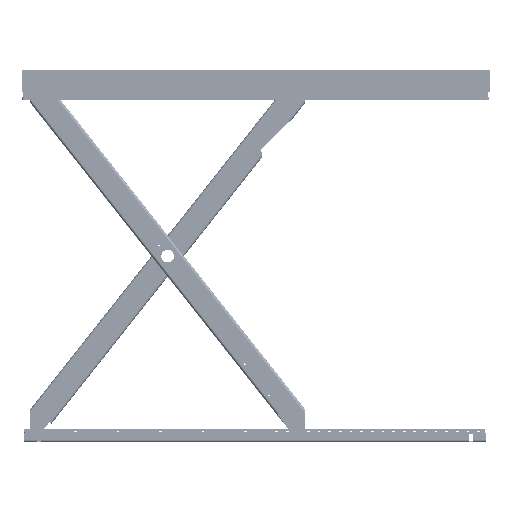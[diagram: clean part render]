
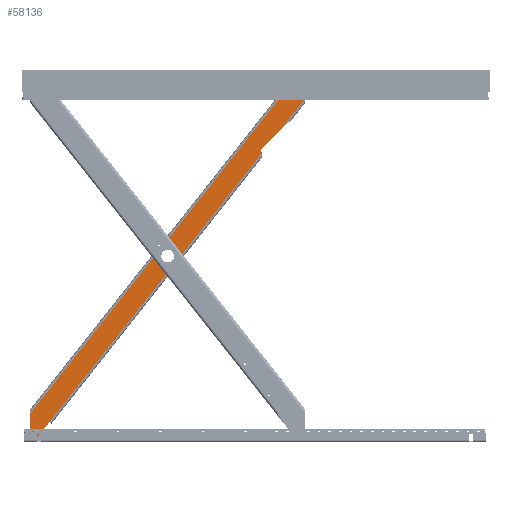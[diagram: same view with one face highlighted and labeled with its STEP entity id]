
A CAD part, left-side view. The second image highlights one B-rep face of the part: STEP entity #58136.
In plain terms, the highlighted planar face has unit normal (-1, 0, 0) as drawn and (1, 0, 0) by its records, which use the part's own axes.
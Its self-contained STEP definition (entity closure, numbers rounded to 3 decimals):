
#3274=PLANE('',#62090);
#5725=LINE('',#86797,#10997);
#5739=LINE('',#86841,#11011);
#5746=LINE('',#86861,#11018);
#5765=LINE('',#86961,#11037);
#5773=LINE('',#87014,#11045);
#5780=LINE('',#87030,#11052);
#5781=LINE('',#87033,#11053);
#5789=LINE('',#87090,#11061);
#5796=LINE('',#87108,#11068);
#5799=LINE('',#87119,#11071);
#5804=LINE('',#87157,#11076);
#10997=VECTOR('',#70287,23.218);
#11011=VECTOR('',#70323,23.218);
#11018=VECTOR('',#70342,84.69);
#11037=VECTOR('',#70423,90.);
#11045=VECTOR('',#70455,1612.503);
#11052=VECTOR('',#70474,90.);
#11053=VECTOR('',#70477,84.69);
#11061=VECTOR('',#70509,131.63);
#11068=VECTOR('',#70534,16.146);
#11071=VECTOR('',#70551,182.695);
#11076=VECTOR('',#70572,1942.429);
#15240=FACE_BOUND('',#19619,.T.);
#15241=FACE_BOUND('',#19620,.T.);
#15242=FACE_BOUND('',#19621,.T.);
#16304=FACE_OUTER_BOUND('',#19618,.T.);
#19618=EDGE_LOOP('',(#43439,#43440,#43441,#43442,#43443,#43444,#43445,#43446,
#43447,#43448,#43449,#43450,#43451,#43452,#43453,#43454));
#19619=EDGE_LOOP('',(#43455));
#19620=EDGE_LOOP('',(#43456));
#19621=EDGE_LOOP('',(#43457));
#23063=CIRCLE('',#61984,20.);
#23072=CIRCLE('',#61996,20.);
#23082=CIRCLE('',#62023,5.);
#23083=CIRCLE('',#62026,35.);
#23084=CIRCLE('',#62029,7.25);
#23085=CIRCLE('',#62032,7.25);
#23091=CIRCLE('',#62051,5.);
#23096=CIRCLE('',#62070,6.);
#26234=VERTEX_POINT('',#86784);
#26235=VERTEX_POINT('',#86785);
#26239=VERTEX_POINT('',#86795);
#26256=VERTEX_POINT('',#86833);
#26257=VERTEX_POINT('',#86834);
#26258=VERTEX_POINT('',#86839);
#26265=VERTEX_POINT('',#86860);
#26285=VERTEX_POINT('',#86915);
#26286=VERTEX_POINT('',#86920);
#26287=VERTEX_POINT('',#86924);
#26288=VERTEX_POINT('',#86928);
#26291=VERTEX_POINT('',#86946);
#26302=VERTEX_POINT('',#87012);
#26304=VERTEX_POINT('',#87024);
#26305=VERTEX_POINT('',#87028);
#26306=VERTEX_POINT('',#87032);
#26318=VERTEX_POINT('',#87087);
#26319=VERTEX_POINT('',#87089);
#26321=VERTEX_POINT('',#87099);
#32615=EDGE_CURVE('',#26234,#26235,#23063,.T.);
#32621=EDGE_CURVE('',#26239,#26234,#5725,.T.);
#32639=EDGE_CURVE('',#26256,#26257,#23072,.T.);
#32643=EDGE_CURVE('',#26256,#26258,#5739,.T.);
#32653=EDGE_CURVE('',#26265,#26235,#5746,.T.);
#32681=EDGE_CURVE('',#26285,#26258,#23082,.T.);
#32683=EDGE_CURVE('',#26286,#26286,#23083,.T.);
#32684=EDGE_CURVE('',#26287,#26287,#23084,.T.);
#32685=EDGE_CURVE('',#26288,#26288,#23085,.T.);
#32690=EDGE_CURVE('',#26291,#26285,#5765,.T.);
#32707=EDGE_CURVE('',#26302,#26291,#5773,.T.);
#32712=EDGE_CURVE('',#26304,#26239,#23091,.T.);
#32715=EDGE_CURVE('',#26304,#26305,#5780,.T.);
#32716=EDGE_CURVE('',#26306,#26257,#5781,.T.);
#32734=EDGE_CURVE('',#26319,#26318,#5789,.T.);
#32740=EDGE_CURVE('',#26321,#26319,#23096,.T.);
#32745=EDGE_CURVE('',#26302,#26321,#5796,.T.);
#32750=EDGE_CURVE('',#26265,#26318,#5799,.T.);
#32759=EDGE_CURVE('',#26305,#26306,#5804,.T.);
#43439=ORIENTED_EDGE('',*,*,#32615,.F.);
#43440=ORIENTED_EDGE('',*,*,#32621,.F.);
#43441=ORIENTED_EDGE('',*,*,#32712,.F.);
#43442=ORIENTED_EDGE('',*,*,#32715,.T.);
#43443=ORIENTED_EDGE('',*,*,#32759,.T.);
#43444=ORIENTED_EDGE('',*,*,#32716,.T.);
#43445=ORIENTED_EDGE('',*,*,#32639,.F.);
#43446=ORIENTED_EDGE('',*,*,#32643,.T.);
#43447=ORIENTED_EDGE('',*,*,#32681,.F.);
#43448=ORIENTED_EDGE('',*,*,#32690,.F.);
#43449=ORIENTED_EDGE('',*,*,#32707,.F.);
#43450=ORIENTED_EDGE('',*,*,#32745,.T.);
#43451=ORIENTED_EDGE('',*,*,#32740,.T.);
#43452=ORIENTED_EDGE('',*,*,#32734,.T.);
#43453=ORIENTED_EDGE('',*,*,#32750,.F.);
#43454=ORIENTED_EDGE('',*,*,#32653,.T.);
#43455=ORIENTED_EDGE('',*,*,#32683,.T.);
#43456=ORIENTED_EDGE('',*,*,#32684,.T.);
#43457=ORIENTED_EDGE('',*,*,#32685,.T.);
#58136=ADVANCED_FACE('',(#16304,#15240,#15241,#15242),#3274,.T.);
#61984=AXIS2_PLACEMENT_3D('',#86786,#70277,#70278);
#61996=AXIS2_PLACEMENT_3D('',#86835,#70316,#70317);
#62023=AXIS2_PLACEMENT_3D('',#86916,#70396,#70397);
#62026=AXIS2_PLACEMENT_3D('',#86921,#70403,#70404);
#62029=AXIS2_PLACEMENT_3D('',#86925,#70409,#70410);
#62032=AXIS2_PLACEMENT_3D('',#86929,#70415,#70416);
#62051=AXIS2_PLACEMENT_3D('',#87025,#70468,#70469);
#62070=AXIS2_PLACEMENT_3D('',#87100,#70521,#70522);
#62090=AXIS2_PLACEMENT_3D('',#87158,#70573,#70574);
#70277=DIRECTION('center_axis',(-1.,0.,0.));
#70278=DIRECTION('ref_axis',(0.,-0.439,-0.898));
#70287=DIRECTION('',(0.,-1.,0.));
#70316=DIRECTION('center_axis',(-1.,0.,0.));
#70317=DIRECTION('ref_axis',(0.,0.439,0.898));
#70323=DIRECTION('',(0.,-1.,0.));
#70342=DIRECTION('',(0.,0.614,-0.789));
#70396=DIRECTION('center_axis',(-1.,0.,0.));
#70397=DIRECTION('ref_axis',(0.,-0.707,0.707));
#70403=DIRECTION('center_axis',(-1.,0.,0.));
#70404=DIRECTION('ref_axis',(0.,1.,-0.027));
#70409=DIRECTION('center_axis',(-1.,0.,0.));
#70410=DIRECTION('ref_axis',(0.,0.,
-1.));
#70415=DIRECTION('center_axis',(-1.,0.,0.));
#70416=DIRECTION('ref_axis',(0.,0.,
-1.));
#70423=DIRECTION('',(0.,0.,1.));
#70455=DIRECTION('',(0.,0.,1.));
#70468=DIRECTION('center_axis',(-1.,0.,0.));
#70469=DIRECTION('ref_axis',(0.,0.707,-0.707));
#70474=DIRECTION('',(0.,0.,1.));
#70477=DIRECTION('',(0.,-0.614,0.789));
#70509=DIRECTION('',(0.,-0.1,-0.995));
#70521=DIRECTION('center_axis',(-1.,0.,0.));
#70522=DIRECTION('ref_axis',(0.,-0.995,0.1));
#70534=DIRECTION('',(0.,0.707,-0.707));
#70551=DIRECTION('',(0.,0.,1.));
#70572=DIRECTION('',(0.,0.,1.));
#70573=DIRECTION('center_axis',(1.,0.,0.));
#70574=DIRECTION('ref_axis',(0.,0.,-1.));
#86784=CARTESIAN_POINT('',(30.,19.782,0.));
#86785=CARTESIAN_POINT('',(30.,3.995,7.721));
#86786=CARTESIAN_POINT('Origin',(30.,19.782,20.));
#86795=CARTESIAN_POINT('',(30.,43.,0.));
#86797=CARTESIAN_POINT('',(30.,24.,0.));
#86833=CARTESIAN_POINT('',(30.,-19.782,2112.));
#86834=CARTESIAN_POINT('',(30.,-3.995,2104.279));
#86835=CARTESIAN_POINT('Origin',(30.,-19.782,2092.));
#86839=CARTESIAN_POINT('',(30.,-43.,2112.));
#86841=CARTESIAN_POINT('',(30.,24.,2112.));
#86860=CARTESIAN_POINT('',(30.,-48.,74.571));
#86861=CARTESIAN_POINT('',(30.,17.162,-9.208));
#86915=CARTESIAN_POINT('',(30.,-48.,2107.));
#86916=CARTESIAN_POINT('Origin',(30.,-43.,2107.));
#86920=CARTESIAN_POINT('',(30.,34.987,1055.05));
#86921=CARTESIAN_POINT('Origin',(30.,0.,1056.));
#86924=CARTESIAN_POINT('',(30.,33.,7.75));
#86925=CARTESIAN_POINT('Origin',(30.,33.,15.));
#86928=CARTESIAN_POINT('',(30.,-33.,2089.75));
#86929=CARTESIAN_POINT('Origin',(30.,-33.,2097.));
#86946=CARTESIAN_POINT('',(30.,-48.,2017.));
#86961=CARTESIAN_POINT('',(30.,-48.,0.));
#87012=CARTESIAN_POINT('',(30.,-48.,404.497));
#87014=CARTESIAN_POINT('',(30.,-48.,0.));
#87024=CARTESIAN_POINT('',(30.,48.,5.));
#87025=CARTESIAN_POINT('Origin',(30.,43.,5.));
#87028=CARTESIAN_POINT('',(30.,48.,95.));
#87030=CARTESIAN_POINT('',(30.,48.,0.));
#87032=CARTESIAN_POINT('',(30.,48.,2037.429));
#87033=CARTESIAN_POINT('',(30.,512.685,1439.977));
#87087=CARTESIAN_POINT('',(30.,-48.,257.267));
#87089=CARTESIAN_POINT('',(30.,-34.856,388.239));
#87090=CARTESIAN_POINT('',(30.,-62.802,109.775));
#87099=CARTESIAN_POINT('',(30.,-36.583,393.081));
#87100=CARTESIAN_POINT('Origin',(30.,-40.826,388.838));
#87108=CARTESIAN_POINT('',(30.,82.833,273.665));
#87119=CARTESIAN_POINT('',(30.,-48.,0.));
#87157=CARTESIAN_POINT('',(30.,48.,0.));
#87158=CARTESIAN_POINT('Origin',(30.,48.,0.));
